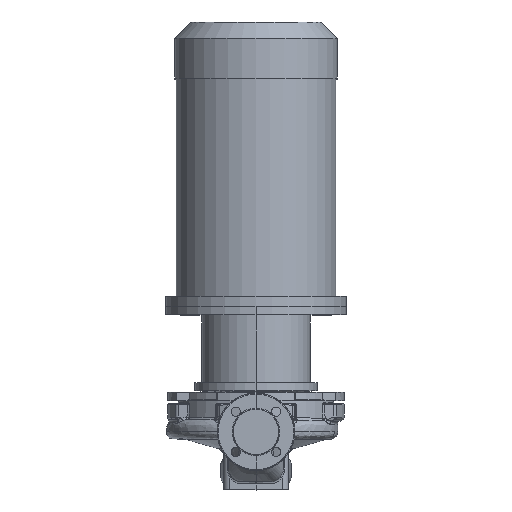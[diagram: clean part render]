
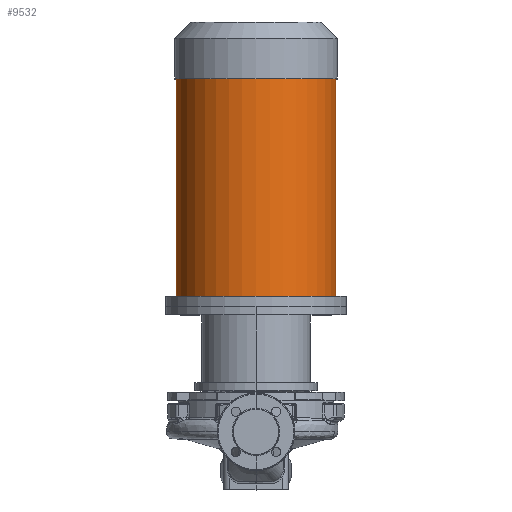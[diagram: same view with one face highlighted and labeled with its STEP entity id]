
A CAD part, top view. The second image highlights one B-rep face of the part: STEP entity #9532.
In plain terms, the highlighted cylindrical face has radius 154.5 mm (diameter 309 mm), a partial arc.
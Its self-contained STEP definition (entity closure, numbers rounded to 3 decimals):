
#486 = DIRECTION ( 'NONE',  ( 0., -1., 0. ) ) ;
#3185 = EDGE_CURVE ( 'NONE', #24382, #64889, #24829, .T. ) ;
#3376 = AXIS2_PLACEMENT_3D ( 'NONE', #5379, #5625, #50341 ) ;
#4225 = EDGE_CURVE ( 'NONE', #13068, #57955, #10963, .T. ) ;
#4484 = EDGE_LOOP ( 'NONE', ( #52248, #26047, #20487, #67731 ) ) ;
#5379 = CARTESIAN_POINT ( 'NONE',  ( 0., 262.3, 0. ) ) ;
#5625 = DIRECTION ( 'NONE',  ( 0., -1., 0. ) ) ;
#6105 = CARTESIAN_POINT ( 'NONE',  ( 154.5, 262.3, 0. ) ) ;
#6328 = DIRECTION ( 'NONE',  ( 0., -1., 0. ) ) ;
#6655 = EDGE_CURVE ( 'NONE', #24382, #13068, #49227, .T. ) ;
#7426 = AXIS2_PLACEMENT_3D ( 'NONE', #57126, #56663, #13660 ) ;
#9532 = ADVANCED_FACE ( 'NONE', ( #14235 ), #55587, .T. ) ;
#10963 = CIRCLE ( 'NONE', #3376, 154.5 ) ;
#13068 = VERTEX_POINT ( 'NONE', #6105 ) ;
#13660 = DIRECTION ( 'NONE',  ( -1., 0., 0. ) ) ;
#14235 = FACE_OUTER_BOUND ( 'NONE', #4484, .T. ) ;
#20487 = ORIENTED_EDGE ( 'NONE', *, *, #27335, .T. ) ;
#24382 = VERTEX_POINT ( 'NONE', #58409 ) ;
#24829 = CIRCLE ( 'NONE', #7426, 154.5 ) ;
#25830 = AXIS2_PLACEMENT_3D ( 'NONE', #47086, #41860, #58215 ) ;
#26047 = ORIENTED_EDGE ( 'NONE', *, *, #3185, .T. ) ;
#27335 = EDGE_CURVE ( 'NONE', #64889, #57955, #43239, .T. ) ;
#39673 = CARTESIAN_POINT ( 'NONE',  ( -154.5, 262.3, 0. ) ) ;
#41860 = DIRECTION ( 'NONE',  ( 0., -1., 0. ) ) ;
#43239 = LINE ( 'NONE', #60545, #46702 ) ;
#43289 = VECTOR ( 'NONE', #6328, 1000. ) ;
#46702 = VECTOR ( 'NONE', #486, 1000. ) ;
#47086 = CARTESIAN_POINT ( 'NONE',  ( 0., 242.3, 0. ) ) ;
#49227 = LINE ( 'NONE', #52961, #43289 ) ;
#50341 = DIRECTION ( 'NONE',  ( -1., 0., 0. ) ) ;
#52248 = ORIENTED_EDGE ( 'NONE', *, *, #6655, .F. ) ;
#52961 = CARTESIAN_POINT ( 'NONE',  ( 154.5, 242.3, 0. ) ) ;
#55587 = CYLINDRICAL_SURFACE ( 'NONE', #25830, 154.5 ) ;
#56663 = DIRECTION ( 'NONE',  ( 0., -1., 0. ) ) ;
#57126 = CARTESIAN_POINT ( 'NONE',  ( 0., 682.3, 0. ) ) ;
#57955 = VERTEX_POINT ( 'NONE', #39673 ) ;
#58215 = DIRECTION ( 'NONE',  ( -1., 0., 0. ) ) ;
#58409 = CARTESIAN_POINT ( 'NONE',  ( 154.5, 682.3, 0. ) ) ;
#60545 = CARTESIAN_POINT ( 'NONE',  ( -154.5, 242.3, 0. ) ) ;
#60667 = CARTESIAN_POINT ( 'NONE',  ( -154.5, 682.3, 0. ) ) ;
#64889 = VERTEX_POINT ( 'NONE', #60667 ) ;
#67731 = ORIENTED_EDGE ( 'NONE', *, *, #4225, .F. ) ;
